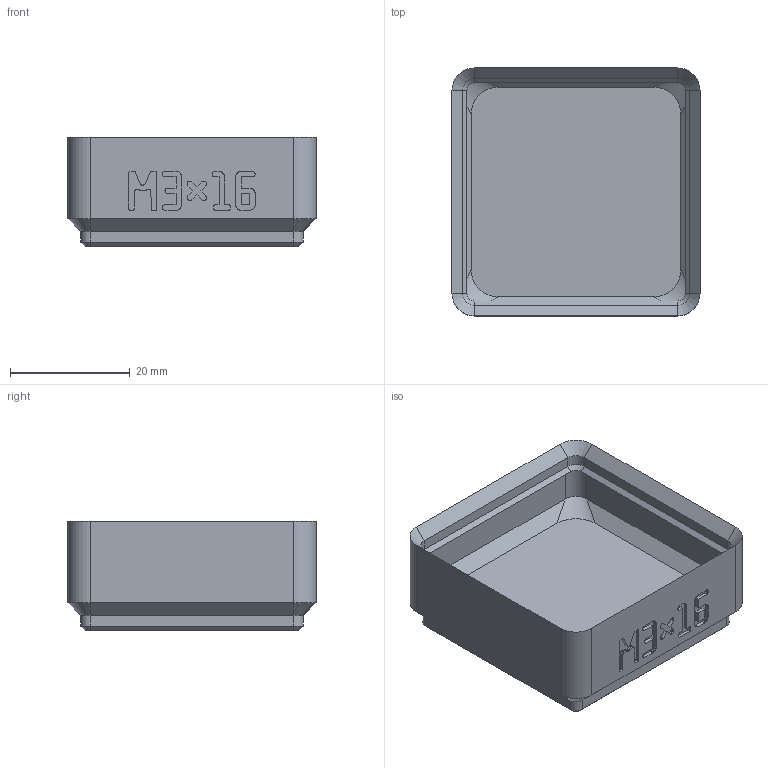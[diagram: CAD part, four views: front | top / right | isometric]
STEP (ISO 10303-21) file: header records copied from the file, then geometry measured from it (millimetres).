
FILE_DESCRIPTION(('Open CASCADE Model'),'2;1');
FILE_NAME('bin_m3x16','2026-11-03T16:47:43',('Author'),('Open CASCADE'), 'Open CASCADE STEP processor 8.0','build123d','Unknown');
FILE_SCHEMA(('AUTOMOTIVE_DESIGN { 1 0 10303 214 1 1 1 1 }'));
Length unit declared in the file: millimetre
Products named in the file (1): bin_m3x16
Bounding box: 41.5 x 41.5 x 18.4 mm (x, y, z)
Volume: 10996.9 mm3; surface area: 8290.5 mm2
Topology: 1 solids, 1 shells, 612 faces, 1729 edges, 1134 vertices
Faces by surface type: plane 564, cylinder 24, cone 16, bspline 8
Full cylindrical faces by diameter (mm): 3.2 x4, 6.5 x4
Entity records: 40726 total; most frequent: CARTESIAN_POINT 8232, DIRECTION 5259, LINE 3901, VECTOR 3901, ORIENTED_EDGE 3458, PCURVE 3458, DEFINITIONAL_REPRESENTATION 3458, EDGE_CURVE 1729
